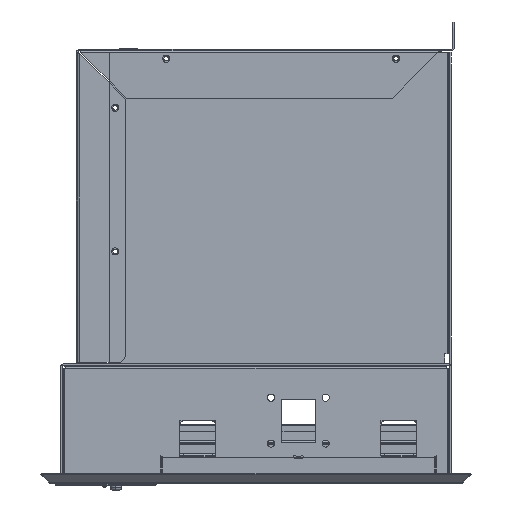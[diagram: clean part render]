
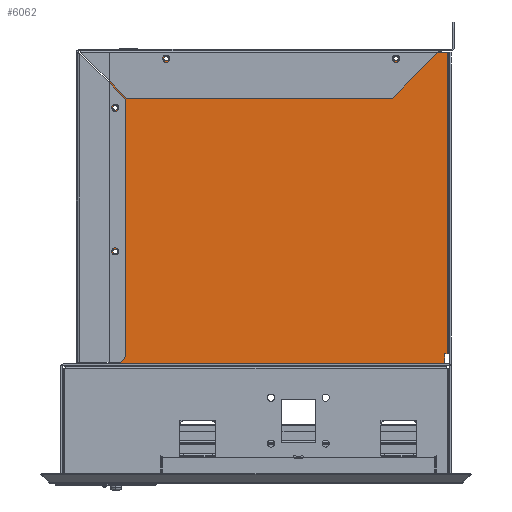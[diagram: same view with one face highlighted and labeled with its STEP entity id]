
A CAD part, left-side view. The second image highlights one B-rep face of the part: STEP entity #6062.
In plain terms, the highlighted planar face has unit normal (-1, 0, 0).
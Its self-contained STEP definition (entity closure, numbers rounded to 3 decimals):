
#743=FACE_BOUND('',#11787,.T.);
#744=FACE_BOUND('',#11788,.T.);
#745=FACE_BOUND('',#11789,.T.);
#746=FACE_BOUND('',#11790,.T.);
#747=FACE_BOUND('',#11791,.T.);
#3790=CIRCLE('',#43777,1.6);
#3792=CIRCLE('',#43780,1.6);
#3794=CIRCLE('',#43783,1.6);
#3797=CIRCLE('',#43787,1.6);
#3798=CIRCLE('',#43789,1.6);
#3800=CIRCLE('',#43792,1.6);
#3802=CIRCLE('',#43795,1.6);
#3805=CIRCLE('',#43799,1.6);
#3806=CIRCLE('',#43801,1.6);
#3808=CIRCLE('',#43804,1.6);
#3810=CIRCLE('',#43807,1.6);
#3813=CIRCLE('',#43811,1.6);
#3814=CIRCLE('',#43813,1.6);
#3816=CIRCLE('',#43816,1.6);
#3818=CIRCLE('',#43819,1.6);
#3821=CIRCLE('',#43823,1.6);
#6062=ADVANCED_FACE('PARTBODY',(#743,#744,#745,#746,#747),#7105,.T.);
#7105=PLANE('',#43834);
#11787=EDGE_LOOP('',(#23737,#23738,#23739,#23740,#23741,#23742));
#11788=EDGE_LOOP('',(#23743,#23744,#23745,#23746));
#11789=EDGE_LOOP('',(#23747,#23748,#23749,#23750));
#11790=EDGE_LOOP('',(#23751,#23752,#23753,#23754));
#11791=EDGE_LOOP('',(#23755,#23756,#23757,#23758));
#23737=ORIENTED_EDGE('',*,*,#33145,.F.);
#23738=ORIENTED_EDGE('',*,*,#33150,.T.);
#23739=ORIENTED_EDGE('',*,*,#33155,.T.);
#23740=ORIENTED_EDGE('',*,*,#33139,.T.);
#23741=ORIENTED_EDGE('',*,*,#33143,.T.);
#23742=ORIENTED_EDGE('',*,*,#33147,.F.);
#23743=ORIENTED_EDGE('',*,*,#33091,.F.);
#23744=ORIENTED_EDGE('',*,*,#33095,.F.);
#23745=ORIENTED_EDGE('',*,*,#33098,.F.);
#23746=ORIENTED_EDGE('',*,*,#33101,.F.);
#23747=ORIENTED_EDGE('',*,*,#33103,.F.);
#23748=ORIENTED_EDGE('',*,*,#33107,.F.);
#23749=ORIENTED_EDGE('',*,*,#33110,.F.);
#23750=ORIENTED_EDGE('',*,*,#33113,.F.);
#23751=ORIENTED_EDGE('',*,*,#33115,.F.);
#23752=ORIENTED_EDGE('',*,*,#33119,.F.);
#23753=ORIENTED_EDGE('',*,*,#33122,.F.);
#23754=ORIENTED_EDGE('',*,*,#33125,.F.);
#23755=ORIENTED_EDGE('',*,*,#33127,.F.);
#23756=ORIENTED_EDGE('',*,*,#33131,.F.);
#23757=ORIENTED_EDGE('',*,*,#33134,.F.);
#23758=ORIENTED_EDGE('',*,*,#33137,.F.);
#27363=VERTEX_POINT('',#74517);
#27366=VERTEX_POINT('',#74525);
#27368=VERTEX_POINT('',#74533);
#27369=VERTEX_POINT('',#74535);
#27372=VERTEX_POINT('',#74542);
#27374=VERTEX_POINT('',#74548);
#27376=VERTEX_POINT('',#74557);
#27377=VERTEX_POINT('',#74559);
#27380=VERTEX_POINT('',#74566);
#27382=VERTEX_POINT('',#74572);
#27384=VERTEX_POINT('',#74581);
#27385=VERTEX_POINT('',#74583);
#27388=VERTEX_POINT('',#74590);
#27390=VERTEX_POINT('',#74596);
#27392=VERTEX_POINT('',#74605);
#27393=VERTEX_POINT('',#74607);
#27396=VERTEX_POINT('',#74614);
#27398=VERTEX_POINT('',#74620);
#27400=VERTEX_POINT('',#74629);
#27401=VERTEX_POINT('',#74631);
#27404=VERTEX_POINT('',#74641);
#27406=VERTEX_POINT('',#74650);
#33091=EDGE_CURVE('GENERATED CIRCLE',#27368,#27369,#3790,.T.);
#33095=EDGE_CURVE('GENERATED CIRCLE',#27372,#27368,#3792,.T.);
#33098=EDGE_CURVE('GENERATED CIRCLE',#27374,#27372,#3794,.T.);
#33101=EDGE_CURVE('GENERATED CIRCLE',#27369,#27374,#3797,.T.);
#33103=EDGE_CURVE('GENERATED CIRCLE',#27376,#27377,#3798,.T.);
#33107=EDGE_CURVE('GENERATED CIRCLE',#27380,#27376,#3800,.T.);
#33110=EDGE_CURVE('GENERATED CIRCLE',#27382,#27380,#3802,.T.);
#33113=EDGE_CURVE('GENERATED CIRCLE',#27377,#27382,#3805,.T.);
#33115=EDGE_CURVE('GENERATED CIRCLE',#27384,#27385,#3806,.T.);
#33119=EDGE_CURVE('GENERATED CIRCLE',#27388,#27384,#3808,.T.);
#33122=EDGE_CURVE('GENERATED CIRCLE',#27390,#27388,#3810,.T.);
#33125=EDGE_CURVE('GENERATED CIRCLE',#27385,#27390,#3813,.T.);
#33127=EDGE_CURVE('GENERATED CIRCLE',#27392,#27393,#3814,.T.);
#33131=EDGE_CURVE('GENERATED CIRCLE',#27396,#27392,#3816,.T.);
#33134=EDGE_CURVE('GENERATED CIRCLE',#27398,#27396,#3818,.T.);
#33137=EDGE_CURVE('GENERATED CIRCLE',#27393,#27398,#3821,.T.);
#33139=EDGE_CURVE('LINE',#27401,#27400,#36406,.T.);
#33143=EDGE_CURVE('LINE',#27400,#27363,#36410,.T.);
#33145=EDGE_CURVE('LINE',#27404,#27366,#36412,.T.);
#33147=EDGE_CURVE('LINE',#27366,#27363,#36414,.T.);
#33150=EDGE_CURVE('LINE',#27404,#27406,#36417,.T.);
#33155=EDGE_CURVE('LINE',#27406,#27401,#36420,.T.);
#36406=LINE('',#74630,#39655);
#36410=LINE('',#74637,#39659);
#36412=LINE('',#74642,#39661);
#36414=LINE('',#74645,#39663);
#36417=LINE('',#74651,#39666);
#36420=LINE('',#74661,#39669);
#39655=VECTOR('',#55364,1.);
#39659=VECTOR('',#55370,1.);
#39661=VECTOR('',#55374,1.);
#39663=VECTOR('',#55378,1.);
#39666=VECTOR('',#55383,1.);
#39669=VECTOR('',#55396,1.);
#43777=AXIS2_PLACEMENT_3D('',#74534,#55252,#55253);
#43780=AXIS2_PLACEMENT_3D('',#74543,#55260,#55261);
#43783=AXIS2_PLACEMENT_3D('',#74549,#55267,#55268);
#43787=AXIS2_PLACEMENT_3D('',#74553,#55275,#55276);
#43789=AXIS2_PLACEMENT_3D('',#74558,#55280,#55281);
#43792=AXIS2_PLACEMENT_3D('',#74567,#55288,#55289);
#43795=AXIS2_PLACEMENT_3D('',#74573,#55295,#55296);
#43799=AXIS2_PLACEMENT_3D('',#74577,#55303,#55304);
#43801=AXIS2_PLACEMENT_3D('',#74582,#55308,#55309);
#43804=AXIS2_PLACEMENT_3D('',#74591,#55316,#55317);
#43807=AXIS2_PLACEMENT_3D('',#74597,#55323,#55324);
#43811=AXIS2_PLACEMENT_3D('',#74601,#55331,#55332);
#43813=AXIS2_PLACEMENT_3D('',#74606,#55336,#55337);
#43816=AXIS2_PLACEMENT_3D('',#74615,#55344,#55345);
#43819=AXIS2_PLACEMENT_3D('',#74621,#55351,#55352);
#43823=AXIS2_PLACEMENT_3D('',#74625,#55359,#55360);
#43834=AXIS2_PLACEMENT_3D('',#74662,#55397,#55398);
#55252=DIRECTION('',(-1.,0.,0.));
#55253=DIRECTION('',(0.,0.,-1.));
#55260=DIRECTION('',(-1.,0.,0.));
#55261=DIRECTION('',(0.,0.,-1.));
#55267=DIRECTION('',(-1.,0.,0.));
#55268=DIRECTION('',(0.,0.,-1.));
#55275=DIRECTION('',(-1.,0.,0.));
#55276=DIRECTION('',(0.,0.,-1.));
#55280=DIRECTION('',(-1.,0.,0.));
#55281=DIRECTION('',(0.,0.,-1.));
#55288=DIRECTION('',(-1.,0.,0.));
#55289=DIRECTION('',(0.,0.,-1.));
#55295=DIRECTION('',(-1.,0.,0.));
#55296=DIRECTION('',(0.,0.,-1.));
#55303=DIRECTION('',(-1.,0.,0.));
#55304=DIRECTION('',(0.,0.,-1.));
#55308=DIRECTION('',(-1.,0.,0.));
#55309=DIRECTION('',(0.,0.,-1.));
#55316=DIRECTION('',(-1.,0.,0.));
#55317=DIRECTION('',(0.,0.,-1.));
#55323=DIRECTION('',(-1.,0.,0.));
#55324=DIRECTION('',(0.,0.,-1.));
#55331=DIRECTION('',(-1.,0.,0.));
#55332=DIRECTION('',(0.,0.,-1.));
#55336=DIRECTION('',(-1.,0.,0.));
#55337=DIRECTION('',(0.,0.,-1.));
#55344=DIRECTION('',(-1.,0.,0.));
#55345=DIRECTION('',(0.,0.,-1.));
#55351=DIRECTION('',(-1.,0.,0.));
#55352=DIRECTION('',(0.,0.,-1.));
#55359=DIRECTION('',(-1.,0.,0.));
#55360=DIRECTION('',(0.,0.,-1.));
#55364=DIRECTION('',(0.,1.,0.));
#55370=DIRECTION('',(0.,0.,-1.));
#55374=DIRECTION('',(0.,0.,-1.));
#55378=DIRECTION('',(0.,1.,0.));
#55383=DIRECTION('',(0.,-1.,0.));
#55396=DIRECTION('',(0.,0.,1.));
#55397=DIRECTION('',(-1.,0.,0.));
#55398=DIRECTION('',(0.,1.,0.));
#74517=CARTESIAN_POINT('',(-26.2,205.913,-3.996));
#74525=CARTESIAN_POINT('',(-26.2,-27.487,-3.996));
#74533=CARTESIAN_POINT('',(-26.2,203.513,75.304));
#74534=CARTESIAN_POINT('',(-26.2,201.913,75.304));
#74535=CARTESIAN_POINT('',(-26.2,201.913,73.704));
#74542=CARTESIAN_POINT('',(-26.2,201.913,76.904));
#74543=CARTESIAN_POINT('',(-26.2,201.913,75.304));
#74548=CARTESIAN_POINT('',(-26.2,200.313,75.304));
#74549=CARTESIAN_POINT('',(-26.2,201.913,75.304));
#74553=CARTESIAN_POINT('',(-26.2,201.913,75.304));
#74557=CARTESIAN_POINT('',(-26.2,203.513,175.304));
#74558=CARTESIAN_POINT('',(-26.2,201.913,175.304));
#74559=CARTESIAN_POINT('',(-26.2,201.913,173.704));
#74566=CARTESIAN_POINT('',(-26.2,201.913,176.904));
#74567=CARTESIAN_POINT('',(-26.2,201.913,175.304));
#74572=CARTESIAN_POINT('',(-26.2,200.313,175.304));
#74573=CARTESIAN_POINT('',(-26.2,201.913,175.304));
#74577=CARTESIAN_POINT('',(-26.2,201.913,175.304));
#74581=CARTESIAN_POINT('',(-26.2,8.013,209.504));
#74582=CARTESIAN_POINT('',(-26.2,6.413,209.504));
#74583=CARTESIAN_POINT('',(-26.2,6.413,207.904));
#74590=CARTESIAN_POINT('',(-26.2,6.413,211.104));
#74591=CARTESIAN_POINT('',(-26.2,6.413,209.504));
#74596=CARTESIAN_POINT('',(-26.2,4.813,209.504));
#74597=CARTESIAN_POINT('',(-26.2,6.413,209.504));
#74601=CARTESIAN_POINT('',(-26.2,6.413,209.504));
#74605=CARTESIAN_POINT('',(-26.2,168.013,209.504));
#74606=CARTESIAN_POINT('',(-26.2,166.413,209.504));
#74607=CARTESIAN_POINT('',(-26.2,166.413,207.904));
#74614=CARTESIAN_POINT('',(-26.2,166.413,211.104));
#74615=CARTESIAN_POINT('',(-26.2,166.413,209.504));
#74620=CARTESIAN_POINT('',(-26.2,164.813,209.504));
#74621=CARTESIAN_POINT('',(-26.2,166.413,209.504));
#74625=CARTESIAN_POINT('',(-26.2,166.413,209.504));
#74629=CARTESIAN_POINT('',(-26.2,205.913,214.004));
#74630=CARTESIAN_POINT('',(-26.2,88.413,214.004));
#74631=CARTESIAN_POINT('',(-26.2,-29.087,214.004));
#74637=CARTESIAN_POINT('',(-26.2,205.913,105.004));
#74641=CARTESIAN_POINT('',(-26.2,-27.487,4.004));
#74642=CARTESIAN_POINT('',(-26.2,-27.487,0.004));
#74645=CARTESIAN_POINT('',(-26.2,89.213,-3.996));
#74650=CARTESIAN_POINT('',(-26.2,-29.087,4.004));
#74651=CARTESIAN_POINT('',(-26.2,-28.287,4.004));
#74661=CARTESIAN_POINT('',(-26.2,-29.087,105.004));
#74662=CARTESIAN_POINT('',(-26.2,87.413,104.004));
